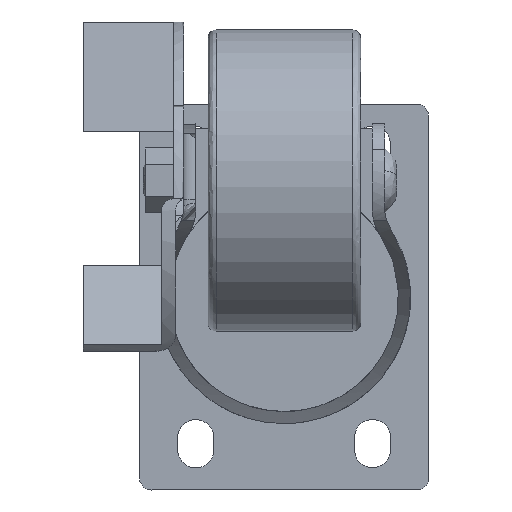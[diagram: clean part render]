
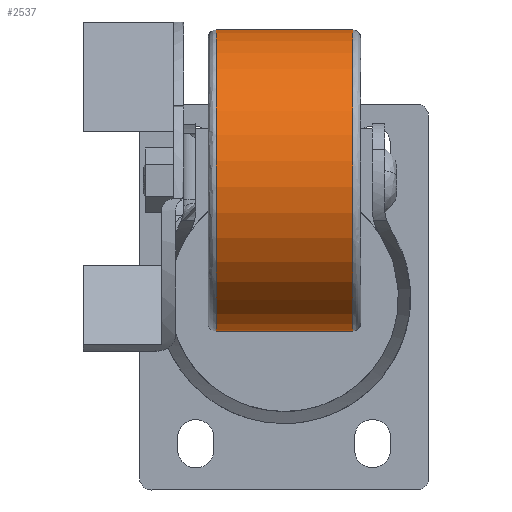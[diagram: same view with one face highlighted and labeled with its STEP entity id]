
A CAD part, front view. The second image highlights one B-rep face of the part: STEP entity #2537.
In plain terms, the highlighted cylindrical face has radius 37.5 mm (diameter 75 mm), a partial arc.
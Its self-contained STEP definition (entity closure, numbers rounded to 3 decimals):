
#9 = EDGE_CURVE ( 'NONE', #538, #4720, #3246, .T. ) ;
#511 = EDGE_CURVE ( 'NONE', #538, #6952, #4524, .T. ) ;
#533 = DIRECTION ( 'NONE',  ( 0., -0.045, 0.999 ) ) ;
#538 = VERTEX_POINT ( 'NONE', #7437 ) ;
#1159 = AXIS2_PLACEMENT_3D ( 'NONE', #6057, #5514, #2160 ) ;
#1236 = EDGE_CURVE ( 'NONE', #6952, #6814, #3798, .T. ) ;
#1625 = AXIS2_PLACEMENT_3D ( 'NONE', #7508, #4021, #533 ) ;
#1697 = VECTOR ( 'NONE', #3823, 1000. ) ;
#1816 = EDGE_LOOP ( 'NONE', ( #5549, #2455, #3004, #6926 ) ) ;
#2160 = DIRECTION ( 'NONE',  ( 0., -0.045, 0.999 ) ) ;
#2231 = DIRECTION ( 'NONE',  ( 0., -0.045, 0.999 ) ) ;
#2455 = ORIENTED_EDGE ( 'NONE', *, *, #511, .T. ) ;
#2537 = ADVANCED_FACE ( 'NONE', ( #3225 ), #4406, .T. ) ;
#2551 = AXIS2_PLACEMENT_3D ( 'NONE', #2820, #6315, #2231 ) ;
#2820 = CARTESIAN_POINT ( 'NONE',  ( 15.664, -35.255, 29. ) ) ;
#2822 = CIRCLE ( 'NONE', #1625, 37.5 ) ;
#3004 = ORIENTED_EDGE ( 'NONE', *, *, #1236, .T. ) ;
#3225 = FACE_OUTER_BOUND ( 'NONE', #1816, .T. ) ;
#3230 = CARTESIAN_POINT ( 'NONE',  ( -114.141, -33.582, -8.463 ) ) ;
#3246 = LINE ( 'NONE', #3230, #1697 ) ;
#3798 = LINE ( 'NONE', #6631, #6715 ) ;
#3823 = DIRECTION ( 'NONE',  ( -1., 0., 0. ) ) ;
#4021 = DIRECTION ( 'NONE',  ( 1., 0., 0. ) ) ;
#4406 = CYLINDRICAL_SURFACE ( 'NONE', #1159, 37.5 ) ;
#4524 = CIRCLE ( 'NONE', #2551, 37.5 ) ;
#4720 = VERTEX_POINT ( 'NONE', #4951 ) ;
#4850 = DIRECTION ( 'NONE',  ( -1., 0., 0. ) ) ;
#4951 = CARTESIAN_POINT ( 'NONE',  ( -18.336, -33.582, -8.463 ) ) ;
#5514 = DIRECTION ( 'NONE',  ( -1., 0., 0. ) ) ;
#5549 = ORIENTED_EDGE ( 'NONE', *, *, #9, .F. ) ;
#5985 = CARTESIAN_POINT ( 'NONE',  ( -18.336, -36.928, 66.463 ) ) ;
#6057 = CARTESIAN_POINT ( 'NONE',  ( -114.141, -35.255, 29. ) ) ;
#6315 = DIRECTION ( 'NONE',  ( -1., 0., 0. ) ) ;
#6420 = EDGE_CURVE ( 'NONE', #6814, #4720, #2822, .T. ) ;
#6631 = CARTESIAN_POINT ( 'NONE',  ( -114.141, -36.928, 66.463 ) ) ;
#6715 = VECTOR ( 'NONE', #4850, 1000. ) ;
#6814 = VERTEX_POINT ( 'NONE', #5985 ) ;
#6926 = ORIENTED_EDGE ( 'NONE', *, *, #6420, .T. ) ;
#6952 = VERTEX_POINT ( 'NONE', #7208 ) ;
#7208 = CARTESIAN_POINT ( 'NONE',  ( 15.664, -36.928, 66.463 ) ) ;
#7437 = CARTESIAN_POINT ( 'NONE',  ( 15.664, -33.582, -8.463 ) ) ;
#7508 = CARTESIAN_POINT ( 'NONE',  ( -18.336, -35.255, 29. ) ) ;
